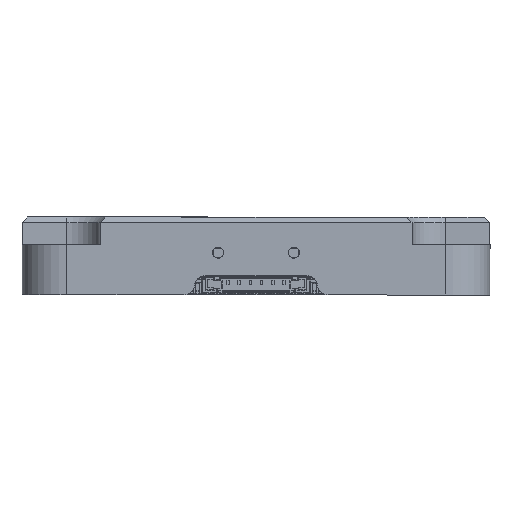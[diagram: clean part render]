
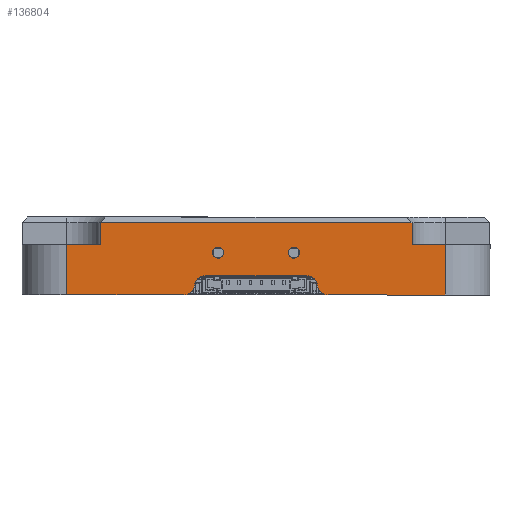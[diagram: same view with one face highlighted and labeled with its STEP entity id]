
A CAD part, front view. The second image highlights one B-rep face of the part: STEP entity #136804.
In plain terms, the highlighted planar face has unit normal (0, -1, 0) as drawn and (0, 0, 1) by its records, which use the part's own axes.
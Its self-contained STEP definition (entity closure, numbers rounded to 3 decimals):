
#13081=LINE('',#202740,#26019);
#13085=LINE('',#202750,#26023);
#13128=LINE('',#202886,#26066);
#13161=LINE('',#202992,#26099);
#13208=LINE('',#203232,#26146);
#13236=LINE('',#203380,#26174);
#13239=LINE('',#203386,#26177);
#13243=LINE('',#203402,#26181);
#13244=LINE('',#203403,#26182);
#13245=LINE('',#203410,#26183);
#26019=VECTOR('',#169366,1000.);
#26023=VECTOR('',#169374,1000.);
#26066=VECTOR('',#169519,1000.);
#26099=VECTOR('',#169630,1000.);
#26146=VECTOR('',#169891,1000.);
#26174=VECTOR('',#170069,1000.);
#26177=VECTOR('',#170072,1000.);
#26181=VECTOR('',#170086,1000.);
#26182=VECTOR('',#170087,1000.);
#26183=VECTOR('',#170096,1000.);
#56335=ORIENTED_EDGE('',*,*,#70892,.T.);
#56336=ORIENTED_EDGE('',*,*,#71197,.T.);
#56337=ORIENTED_EDGE('',*,*,#70959,.T.);
#56338=ORIENTED_EDGE('',*,*,#71010,.F.);
#56339=ORIENTED_EDGE('',*,*,#71198,.T.);
#56340=ORIENTED_EDGE('',*,*,#71189,.T.);
#56341=ORIENTED_EDGE('',*,*,#71199,.T.);
#56342=ORIENTED_EDGE('',*,*,#71200,.F.);
#56343=ORIENTED_EDGE('',*,*,#71122,.F.);
#56344=ORIENTED_EDGE('',*,*,#71201,.F.);
#56345=ORIENTED_EDGE('',*,*,#71202,.T.);
#56346=ORIENTED_EDGE('',*,*,#71186,.T.);
#56347=ORIENTED_EDGE('',*,*,#71203,.F.);
#56348=ORIENTED_EDGE('',*,*,#70887,.F.);
#56349=ORIENTED_EDGE('',*,*,#71116,.F.);
#56350=ORIENTED_EDGE('',*,*,#71115,.F.);
#70887=EDGE_CURVE('',#80608,#80609,#13081,.T.);
#70892=EDGE_CURVE('',#80608,#80612,#13085,.T.);
#70959=EDGE_CURVE('',#80655,#80656,#13128,.T.);
#71010=EDGE_CURVE('',#80688,#80656,#13161,.T.);
#71115=EDGE_CURVE('',#80768,#80768,#82525,.T.);
#71116=EDGE_CURVE('',#80769,#80769,#82526,.T.);
#71122=EDGE_CURVE('',#80774,#80775,#13208,.T.);
#71186=EDGE_CURVE('',#80820,#80821,#13236,.T.);
#71189=EDGE_CURVE('',#80823,#80822,#13239,.T.);
#71197=EDGE_CURVE('',#80612,#80655,#13243,.T.);
#71198=EDGE_CURVE('',#80688,#80823,#13244,.T.);
#71199=EDGE_CURVE('',#80822,#80830,#82571,.F.);
#71200=EDGE_CURVE('',#80775,#80830,#82572,.F.);
#71201=EDGE_CURVE('',#80831,#80774,#82573,.F.);
#71202=EDGE_CURVE('',#80831,#80820,#82574,.F.);
#71203=EDGE_CURVE('',#80609,#80821,#13245,.T.);
#80608=VERTEX_POINT('',#202739);
#80609=VERTEX_POINT('',#202741);
#80612=VERTEX_POINT('',#202749);
#80655=VERTEX_POINT('',#202887);
#80656=VERTEX_POINT('',#202888);
#80688=VERTEX_POINT('',#202991);
#80768=VERTEX_POINT('',#203213);
#80769=VERTEX_POINT('',#203216);
#80774=VERTEX_POINT('',#203231);
#80775=VERTEX_POINT('',#203233);
#80820=VERTEX_POINT('',#203381);
#80821=VERTEX_POINT('',#203382);
#80822=VERTEX_POINT('',#203385);
#80823=VERTEX_POINT('',#203387);
#80830=VERTEX_POINT('',#203405);
#80831=VERTEX_POINT('',#203408);
#82525=CIRCLE('',#143588,0.5);
#82526=CIRCLE('',#143590,0.5);
#82571=CIRCLE('',#143680,1.);
#82572=CIRCLE('',#143681,1.);
#82573=CIRCLE('',#143682,1.);
#82574=CIRCLE('',#143683,1.);
#87707=EDGE_LOOP('',(#56335,#56336,#56337,#56338,#56339,#56340,#56341,#56342,
#56343,#56344,#56345,#56346,#56347,#56348));
#87708=EDGE_LOOP('',(#56349));
#87709=EDGE_LOOP('',(#56350));
#92893=FACE_BOUND('',#87707,.T.);
#92894=FACE_BOUND('',#87708,.T.);
#92895=FACE_BOUND('',#87709,.T.);
#97033=PLANE('',#143679);
#136804=ADVANCED_FACE('',(#92893,#92894,#92895),#97033,.F.);
#143588=AXIS2_PLACEMENT_3D('',#203212,#169866,#169867);
#143590=AXIS2_PLACEMENT_3D('',#203215,#169870,#169871);
#143679=AXIS2_PLACEMENT_3D('',#203401,#170084,#170085);
#143680=AXIS2_PLACEMENT_3D('',#203404,#170088,#170089);
#143681=AXIS2_PLACEMENT_3D('',#203406,#170090,#170091);
#143682=AXIS2_PLACEMENT_3D('',#203407,#170092,#170093);
#143683=AXIS2_PLACEMENT_3D('',#203409,#170094,#170095);
#169366=DIRECTION('',(1.,0.,0.));
#169374=DIRECTION('',(0.,1.,0.));
#169519=DIRECTION('',(0.,-1.,0.));
#169630=DIRECTION('',(1.,0.,0.));
#169866=DIRECTION('',(0.,0.,1.));
#169867=DIRECTION('',(1.,0.,0.));
#169870=DIRECTION('',(0.,0.,1.));
#169871=DIRECTION('',(1.,0.,0.));
#169891=DIRECTION('',(-1.,0.,0.));
#170069=DIRECTION('',(1.,0.,0.));
#170072=DIRECTION('',(1.,0.,0.));
#170084=DIRECTION('',(0.,0.,-1.));
#170085=DIRECTION('',(-1.,0.,0.));
#170086=DIRECTION('',(-1.,0.,0.));
#170087=DIRECTION('',(0.,-1.,0.));
#170088=DIRECTION('',(0.,0.,-1.));
#170089=DIRECTION('',(-1.,0.,0.));
#170090=DIRECTION('',(0.,0.,-1.));
#170091=DIRECTION('',(-1.,0.,0.));
#170092=DIRECTION('',(0.,0.,-1.));
#170093=DIRECTION('',(-1.,0.,0.));
#170094=DIRECTION('',(0.,0.,-1.));
#170095=DIRECTION('',(-1.,0.,0.));
#170096=DIRECTION('',(0.,-1.,0.));
#202739=CARTESIAN_POINT('',(14.,4.5,33.5));
#202740=CARTESIAN_POINT('',(-17.,4.5,33.5));
#202741=CARTESIAN_POINT('',(17.,4.5,33.5));
#202749=CARTESIAN_POINT('',(14.,6.5,33.5));
#202750=CARTESIAN_POINT('',(14.,4.5,33.5));
#202886=CARTESIAN_POINT('',(-14.,4.5,33.5));
#202887=CARTESIAN_POINT('',(-14.,6.5,33.5));
#202888=CARTESIAN_POINT('',(-14.,4.5,33.5));
#202991=CARTESIAN_POINT('',(-17.,4.5,33.5));
#202992=CARTESIAN_POINT('',(-17.,4.5,33.5));
#203212=CARTESIAN_POINT('',(-3.4,3.8,33.5));
#203213=CARTESIAN_POINT('',(-2.9,3.8,33.5));
#203215=CARTESIAN_POINT('',(3.4,3.8,33.5));
#203216=CARTESIAN_POINT('',(3.9,3.8,33.5));
#203231=CARTESIAN_POINT('',(4.517,1.74,33.5));
#203232=CARTESIAN_POINT('',(-5.5,1.74,33.5));
#203233=CARTESIAN_POINT('',(-4.517,1.74,33.5));
#203380=CARTESIAN_POINT('',(-17.,0.,33.5));
#203381=CARTESIAN_POINT('',(6.5,0.,33.5));
#203382=CARTESIAN_POINT('',(17.,0.,33.5));
#203385=CARTESIAN_POINT('',(-6.5,0.,33.5));
#203386=CARTESIAN_POINT('',(-17.,0.,33.5));
#203387=CARTESIAN_POINT('',(-17.,0.,33.5));
#203401=CARTESIAN_POINT('',(-17.,7.,33.5));
#203402=CARTESIAN_POINT('',(-17.,6.5,33.5));
#203403=CARTESIAN_POINT('',(-17.,7.,33.5));
#203404=CARTESIAN_POINT('',(-6.5,1.,33.5));
#203405=CARTESIAN_POINT('',(-5.508,0.87,33.5));
#203406=CARTESIAN_POINT('',(-4.517,0.74,33.5));
#203407=CARTESIAN_POINT('',(4.517,0.74,33.5));
#203408=CARTESIAN_POINT('',(5.508,0.87,33.5));
#203409=CARTESIAN_POINT('',(6.5,1.,33.5));
#203410=CARTESIAN_POINT('',(17.,7.,33.5));
